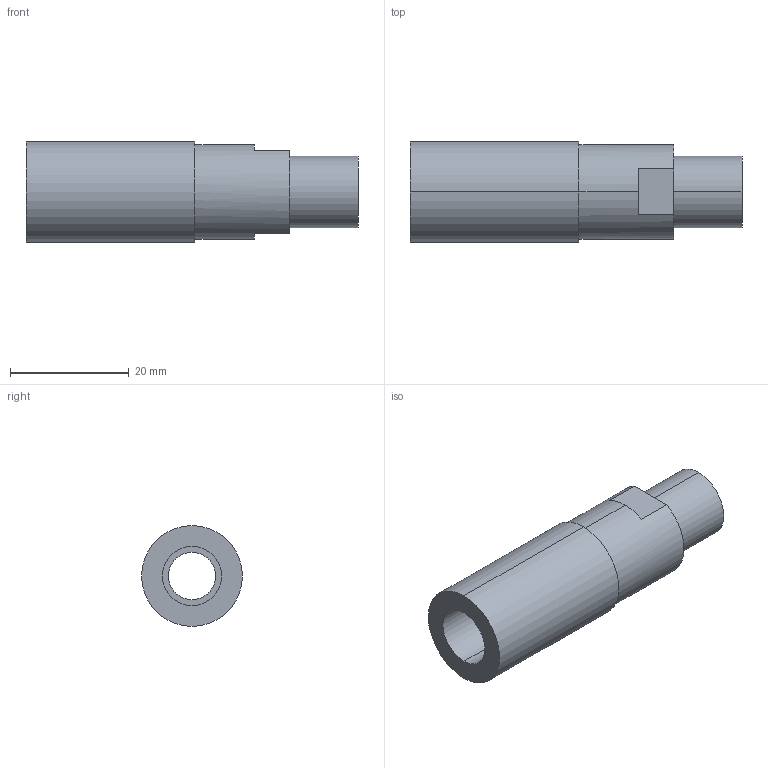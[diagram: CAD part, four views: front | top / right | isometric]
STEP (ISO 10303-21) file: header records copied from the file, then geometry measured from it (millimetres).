
FILE_DESCRIPTION (( 'STEP AP203' ), '1' );
FILE_NAME ('ER-AF20.STEP', '2005-09-09T02:23:44', ( '' ), ( '' ), 'SwSTEP 2.0', 'SolidWorks 2004073', '' );
FILE_SCHEMA (( 'CONFIG_CONTROL_DESIGN' ));
Length unit declared in the file: millimetre
Products named in the file (1): ER-AF20
Bounding box: 56 x 17 x 17 mm (x, y, z)
Volume: 7882.7 mm3; surface area: 4566.9 mm2
Topology: 1 solids, 1 shells, 19 faces, 42 edges, 28 vertices
Faces by surface type: cylinder 10, plane 9
Entity records: 621 total; most frequent: DIRECTION 106, CARTESIAN_POINT 90, ORIENTED_EDGE 84, AXIS2_PLACEMENT_3D 44, EDGE_CURVE 42, VERTEX_POINT 28, EDGE_LOOP 24, CIRCLE 24
